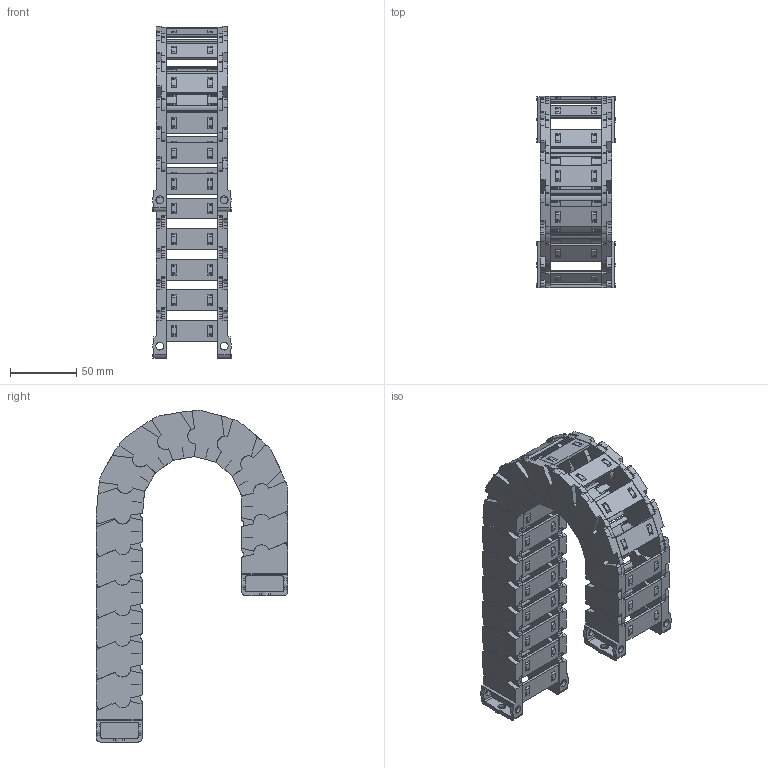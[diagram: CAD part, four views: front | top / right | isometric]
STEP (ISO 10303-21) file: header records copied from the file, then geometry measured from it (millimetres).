
FILE_DESCRIPTION((''),'2;1');
FILE_NAME('JY-25X38-R55_ASM','2022-05-07T10:07:02',('admin'),(''),'CREO PARAMETRIC BY PTC INC, 2021164','CREO PARAMETRIC BY PTC INC, 2021164','');
FILE_SCHEMA(('CONFIG_CONTROL_DESIGN','GEOMETRIC_VALIDATION_PROPERTIES_MIM'));
Length unit declared in the file: millimetre
Products named in the file (11): 25XL-L; 25-35XL-YP; 25XL-R; ASM0001_ASM; 25-LTT-A-L; 25-LTT-A-R; 25XL-LTT-A_ASM; 25-LTT-B-L; 25-LTT-B-R; 25XL-LTT-B_ASM; JY-25X38-R55_ASM
Assembly tree (29 placements, depth 3):
  JY-25X38-R55_ASM
    ASM0001_ASM  x15
      25XL-L
      25-35XL-YP
      25XL-R
    25XL-LTT-A_ASM
      25-LTT-A-L
      25-35XL-YP  x2
      25-LTT-A-R
    25XL-LTT-B_ASM
      25-LTT-B-L
      25-35XL-YP  x2
      25-LTT-B-R
Bounding box: 59.67 x 144.67 x 250.78 mm (x, y, z)
Volume: 255666.5 mm3; surface area: 193309.8 mm2
Topology: 68 solids, 83 shells, 3544 faces, 10581 edges, 7156 vertices
Faces by surface type: plane 2605, cylinder 909, cone 30
Entity records: 24023 total; most frequent: CARTESIAN_POINT 3114, DIRECTION 3009, ORIENTED_EDGE 2962, EDGE_CURVE 1483, PRESENTATION_STYLE_ASSIGNMENT 1413, STYLED_ITEM 1381, VECTOR 1053, LINE 1053
